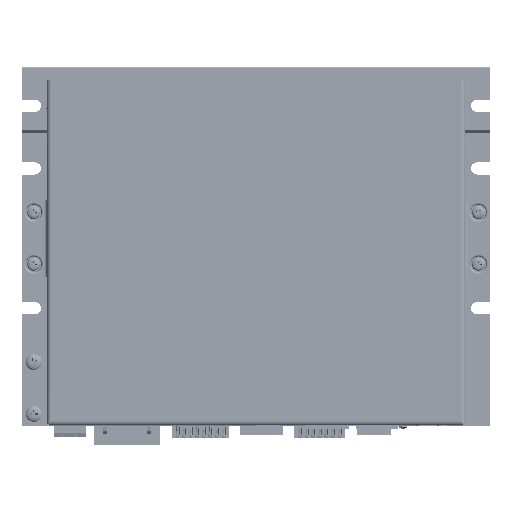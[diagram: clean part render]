
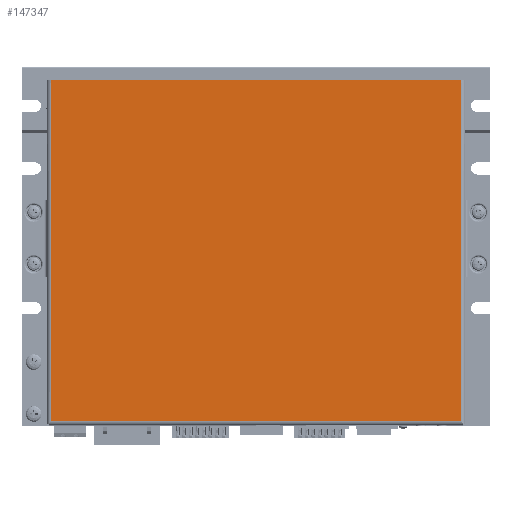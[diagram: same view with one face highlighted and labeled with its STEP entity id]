
A CAD part, top view. The second image highlights one B-rep face of the part: STEP entity #147347.
In plain terms, the highlighted planar face has unit normal (0, 0, 1).
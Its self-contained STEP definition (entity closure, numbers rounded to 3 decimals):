
#17022=LINE('',#228044,#29829);
#17049=LINE('',#228143,#29856);
#17050=LINE('',#228145,#29857);
#17051=LINE('',#228147,#29858);
#29829=VECTOR('',#186591,1000.);
#29856=VECTOR('',#186708,1000.);
#29857=VECTOR('',#186709,1000.);
#29858=VECTOR('',#186710,1000.);
#61574=ORIENTED_EDGE('',*,*,#79923,.T.);
#61575=ORIENTED_EDGE('',*,*,#79924,.T.);
#61576=ORIENTED_EDGE('',*,*,#79925,.T.);
#61577=ORIENTED_EDGE('',*,*,#79877,.T.);
#79877=EDGE_CURVE('',#91526,#91525,#17022,.T.);
#79923=EDGE_CURVE('',#91525,#91553,#17049,.T.);
#79924=EDGE_CURVE('',#91553,#91554,#17050,.T.);
#79925=EDGE_CURVE('',#91554,#91526,#17051,.T.);
#91525=VERTEX_POINT('',#228043);
#91526=VERTEX_POINT('',#228045);
#91553=VERTEX_POINT('',#228144);
#91554=VERTEX_POINT('',#228146);
#100137=EDGE_LOOP('',(#61574,#61575,#61576,#61577));
#107915=FACE_BOUND('',#100137,.T.);
#113029=PLANE('',#156763);
#147347=ADVANCED_FACE('',(#107915),#113029,.T.);
#156763=AXIS2_PLACEMENT_3D('',#228142,#186706,#186707);
#186591=DIRECTION('',(-1.,0.,0.));
#186706=DIRECTION('',(0.,0.,1.));
#186707=DIRECTION('',(1.,0.,0.));
#186708=DIRECTION('',(0.,-1.,0.));
#186709=DIRECTION('',(1.,0.,0.));
#186710=DIRECTION('',(0.,1.,0.));
#228043=CARTESIAN_POINT('',(-79.05,66.75,0.));
#228044=CARTESIAN_POINT('',(80.75,66.75,0.));
#228045=CARTESIAN_POINT('',(79.05,66.75,0.));
#228142=CARTESIAN_POINT('',(0.,0.,0.));
#228143=CARTESIAN_POINT('',(-79.05,66.75,0.));
#228144=CARTESIAN_POINT('',(-79.05,-65.05,0.));
#228145=CARTESIAN_POINT('',(-79.05,-65.05,0.));
#228146=CARTESIAN_POINT('',(79.05,-65.05,0.));
#228147=CARTESIAN_POINT('',(79.05,-66.75,0.));
